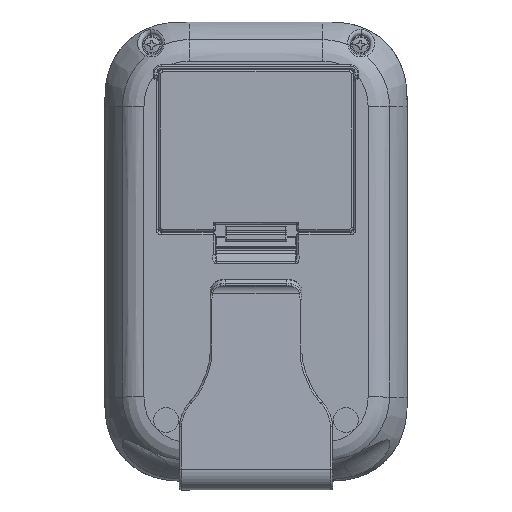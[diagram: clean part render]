
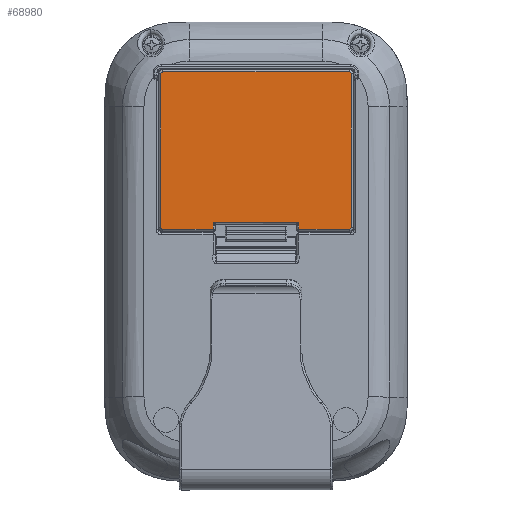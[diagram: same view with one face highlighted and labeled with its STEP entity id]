
A CAD part, front view. The second image highlights one B-rep face of the part: STEP entity #68980.
In plain terms, the highlighted planar face has unit normal (0, -1, 0).
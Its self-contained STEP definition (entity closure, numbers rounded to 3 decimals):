
#66366=DIRECTION('',(1.,0.,0.));
#66367=VECTOR('',#66366,13.169);
#66368=CARTESIAN_POINT('',(-24.369,-35.3,49.832));
#66369=LINE('',#66368,#66367);
#66370=CARTESIAN_POINT('',(-24.868,-35.3,50.331));
#66371=CARTESIAN_POINT('',(-24.868,-35.3,50.312));
#66372=CARTESIAN_POINT('',(-24.866,-35.3,50.275));
#66373=CARTESIAN_POINT('',(-24.857,-35.3,50.22));
#66374=CARTESIAN_POINT('',(-24.841,-35.3,50.166));
#66375=CARTESIAN_POINT('',(-24.82,-35.3,50.114));
#66376=CARTESIAN_POINT('',(-24.793,-35.3,50.065));
#66377=CARTESIAN_POINT('',(-24.76,-35.3,50.019));
#66378=CARTESIAN_POINT('',(-24.723,-35.3,49.977));
#66379=CARTESIAN_POINT('',(-24.681,-35.3,49.94));
#66380=CARTESIAN_POINT('',(-24.635,-35.3,49.907));
#66381=CARTESIAN_POINT('',(-24.586,-35.3,49.88));
#66382=CARTESIAN_POINT('',(-24.534,-35.3,49.859));
#66383=CARTESIAN_POINT('',(-24.48,-35.3,49.843));
#66384=CARTESIAN_POINT('',(-24.425,-35.3,49.834));
#66385=CARTESIAN_POINT('',(-24.388,-35.3,49.832));
#66386=CARTESIAN_POINT('',(-24.369,-35.3,49.832));
#66388=DIRECTION('',(0.,0.,-1.));
#66389=VECTOR('',#66388,40.138);
#66390=CARTESIAN_POINT('',(-24.868,-35.3,90.469));
#66391=LINE('',#66390,#66389);
#66392=CARTESIAN_POINT('',(-24.369,-35.3,90.968));
#66393=CARTESIAN_POINT('',(-24.388,-35.3,90.968));
#66394=CARTESIAN_POINT('',(-24.425,-35.3,90.966));
#66395=CARTESIAN_POINT('',(-24.48,-35.3,90.957));
#66396=CARTESIAN_POINT('',(-24.534,-35.3,90.941));
#66397=CARTESIAN_POINT('',(-24.586,-35.3,90.92));
#66398=CARTESIAN_POINT('',(-24.635,-35.3,90.893));
#66399=CARTESIAN_POINT('',(-24.681,-35.3,90.86));
#66400=CARTESIAN_POINT('',(-24.723,-35.3,90.823));
#66401=CARTESIAN_POINT('',(-24.76,-35.3,90.781));
#66402=CARTESIAN_POINT('',(-24.793,-35.3,90.735));
#66403=CARTESIAN_POINT('',(-24.82,-35.3,90.686));
#66404=CARTESIAN_POINT('',(-24.841,-35.3,90.634));
#66405=CARTESIAN_POINT('',(-24.857,-35.3,90.58));
#66406=CARTESIAN_POINT('',(-24.866,-35.3,90.525));
#66407=CARTESIAN_POINT('',(-24.868,-35.3,90.488));
#66408=CARTESIAN_POINT('',(-24.868,-35.3,90.469));
#66410=DIRECTION('',(-1.,0.,0.));
#66411=VECTOR('',#66410,48.738);
#66412=CARTESIAN_POINT('',(24.369,-35.3,90.968));
#66413=LINE('',#66412,#66411);
#66414=CARTESIAN_POINT('',(24.868,-35.3,90.469));
#66415=CARTESIAN_POINT('',(24.868,-35.3,90.488));
#66416=CARTESIAN_POINT('',(24.866,-35.3,90.525));
#66417=CARTESIAN_POINT('',(24.857,-35.3,90.58));
#66418=CARTESIAN_POINT('',(24.841,-35.3,90.634));
#66419=CARTESIAN_POINT('',(24.82,-35.3,90.686));
#66420=CARTESIAN_POINT('',(24.793,-35.3,90.735));
#66421=CARTESIAN_POINT('',(24.76,-35.3,90.781));
#66422=CARTESIAN_POINT('',(24.723,-35.3,90.823));
#66423=CARTESIAN_POINT('',(24.681,-35.3,90.86));
#66424=CARTESIAN_POINT('',(24.635,-35.3,90.893));
#66425=CARTESIAN_POINT('',(24.586,-35.3,90.92));
#66426=CARTESIAN_POINT('',(24.534,-35.3,90.941));
#66427=CARTESIAN_POINT('',(24.48,-35.3,90.957));
#66428=CARTESIAN_POINT('',(24.425,-35.3,90.966));
#66429=CARTESIAN_POINT('',(24.388,-35.3,90.968));
#66430=CARTESIAN_POINT('',(24.369,-35.3,90.968));
#66432=DIRECTION('',(0.,0.,1.));
#66433=VECTOR('',#66432,40.138);
#66434=CARTESIAN_POINT('',(24.868,-35.3,50.331));
#66435=LINE('',#66434,#66433);
#66436=CARTESIAN_POINT('',(24.369,-35.3,49.832));
#66437=CARTESIAN_POINT('',(24.388,-35.3,49.832));
#66438=CARTESIAN_POINT('',(24.425,-35.3,49.834));
#66439=CARTESIAN_POINT('',(24.48,-35.3,49.843));
#66440=CARTESIAN_POINT('',(24.534,-35.3,49.859));
#66441=CARTESIAN_POINT('',(24.586,-35.3,49.88));
#66442=CARTESIAN_POINT('',(24.635,-35.3,49.907));
#66443=CARTESIAN_POINT('',(24.681,-35.3,49.94));
#66444=CARTESIAN_POINT('',(24.723,-35.3,49.977));
#66445=CARTESIAN_POINT('',(24.76,-35.3,50.019));
#66446=CARTESIAN_POINT('',(24.793,-35.3,50.065));
#66447=CARTESIAN_POINT('',(24.82,-35.3,50.114));
#66448=CARTESIAN_POINT('',(24.841,-35.3,50.166));
#66449=CARTESIAN_POINT('',(24.857,-35.3,50.22));
#66450=CARTESIAN_POINT('',(24.866,-35.3,50.275));
#66451=CARTESIAN_POINT('',(24.868,-35.3,50.312));
#66452=CARTESIAN_POINT('',(24.868,-35.3,50.331));
#66454=DIRECTION('',(1.,0.,0.));
#66455=VECTOR('',#66454,13.169);
#66456=CARTESIAN_POINT('',(11.2,-35.3,49.832));
#66457=LINE('',#66456,#66455);
#66458=DIRECTION('',(0.,0.,-1.));
#66459=VECTOR('',#66458,1.768);
#66460=CARTESIAN_POINT('',(11.2,-35.3,51.6));
#66461=LINE('',#66460,#66459);
#66462=DIRECTION('',(1.,0.,0.));
#66463=VECTOR('',#66462,22.4);
#66464=CARTESIAN_POINT('',(-11.2,-35.3,51.6));
#66465=LINE('',#66464,#66463);
#66466=DIRECTION('',(0.,0.,1.));
#66467=VECTOR('',#66466,1.768);
#66468=CARTESIAN_POINT('',(-11.2,-35.3,49.832));
#66469=LINE('',#66468,#66467);
#66491=CARTESIAN_POINT('',(-11.2,-35.3,49.832));
#68617=CARTESIAN_POINT('',(-24.868,-35.3,90.469));
#68618=CARTESIAN_POINT('',(-24.868,-35.3,50.331));
#68619=VERTEX_POINT('',#68617);
#68620=VERTEX_POINT('',#68618);
#68624=CARTESIAN_POINT('',(24.369,-35.3,90.968));
#68625=CARTESIAN_POINT('',(-24.369,-35.3,90.968));
#68626=VERTEX_POINT('',#68624);
#68627=VERTEX_POINT('',#68625);
#68631=CARTESIAN_POINT('',(24.868,-35.3,50.331));
#68632=CARTESIAN_POINT('',(24.868,-35.3,90.469));
#68633=VERTEX_POINT('',#68631);
#68634=VERTEX_POINT('',#68632);
#68638=CARTESIAN_POINT('',(-24.369,-35.3,49.832));
#68639=VERTEX_POINT('',#68638);
#68640=CARTESIAN_POINT('',(24.369,-35.3,49.832));
#68641=VERTEX_POINT('',#68640);
#68739=VERTEX_POINT('',#66491);
#68757=CARTESIAN_POINT('',(11.2,-35.3,49.832));
#68758=VERTEX_POINT('',#68757);
#68761=CARTESIAN_POINT('',(-11.2,-35.3,51.6));
#68762=VERTEX_POINT('',#68761);
#68765=CARTESIAN_POINT('',(11.2,-35.3,51.6));
#68766=VERTEX_POINT('',#68765);
#68949=CARTESIAN_POINT('',(-25.5,-35.3,49.2));
#68950=DIRECTION('',(0.,1.,0.));
#68951=DIRECTION('',(1.,0.,0.));
#68952=AXIS2_PLACEMENT_3D('',#68949,#68950,#68951);
#68953=PLANE('',#68952);
#68955=ORIENTED_EDGE('',*,*,#68954,.F.);
#68957=ORIENTED_EDGE('',*,*,#68956,.F.);
#68959=ORIENTED_EDGE('',*,*,#68958,.F.);
#68961=ORIENTED_EDGE('',*,*,#68960,.F.);
#68963=ORIENTED_EDGE('',*,*,#68962,.F.);
#68965=ORIENTED_EDGE('',*,*,#68964,.F.);
#68967=ORIENTED_EDGE('',*,*,#68966,.F.);
#68969=ORIENTED_EDGE('',*,*,#68968,.F.);
#68971=ORIENTED_EDGE('',*,*,#68970,.F.);
#68973=ORIENTED_EDGE('',*,*,#68972,.F.);
#68975=ORIENTED_EDGE('',*,*,#68974,.F.);
#68977=ORIENTED_EDGE('',*,*,#68976,.F.);
#68978=EDGE_LOOP('',(#68955,#68957,#68959,#68961,#68963,#68965,#68967,#68969,
#68971,#68973,#68975,#68977));
#68979=FACE_OUTER_BOUND('',#68978,.F.);
#66387=B_SPLINE_CURVE_WITH_KNOTS('',3,(#66370,#66371,#66372,#66373,#66374,
#66375,#66376,#66377,#66378,#66379,#66380,#66381,#66382,#66383,#66384,#66385,
#66386),.UNSPECIFIED.,.F.,.F.,(4,1,1,1,1,1,1,1,1,1,1,1,1,1,4),(0.,
0.071,0.143,0.214,0.286,
0.357,0.429,0.5,0.571,0.643,
0.714,0.786,0.857,0.929,1.),
.UNSPECIFIED.);
#66409=B_SPLINE_CURVE_WITH_KNOTS('',3,(#66392,#66393,#66394,#66395,#66396,
#66397,#66398,#66399,#66400,#66401,#66402,#66403,#66404,#66405,#66406,#66407,
#66408),.UNSPECIFIED.,.F.,.F.,(4,1,1,1,1,1,1,1,1,1,1,1,1,1,4),(0.,
0.071,0.143,0.214,0.286,
0.357,0.429,0.5,0.571,0.643,
0.714,0.786,0.857,0.929,1.),
.UNSPECIFIED.);
#66431=B_SPLINE_CURVE_WITH_KNOTS('',3,(#66414,#66415,#66416,#66417,#66418,
#66419,#66420,#66421,#66422,#66423,#66424,#66425,#66426,#66427,#66428,#66429,
#66430),.UNSPECIFIED.,.F.,.F.,(4,1,1,1,1,1,1,1,1,1,1,1,1,1,4),(0.,
0.071,0.143,0.214,0.286,
0.357,0.429,0.5,0.571,0.643,
0.714,0.786,0.857,0.929,1.),
.UNSPECIFIED.);
#66453=B_SPLINE_CURVE_WITH_KNOTS('',3,(#66436,#66437,#66438,#66439,#66440,
#66441,#66442,#66443,#66444,#66445,#66446,#66447,#66448,#66449,#66450,#66451,
#66452),.UNSPECIFIED.,.F.,.F.,(4,1,1,1,1,1,1,1,1,1,1,1,1,1,4),(0.,
0.071,0.143,0.214,0.286,
0.357,0.429,0.5,0.571,0.643,
0.714,0.786,0.857,0.929,1.),
.UNSPECIFIED.);
#68954=EDGE_CURVE('',#68639,#68739,#66369,.T.);
#68956=EDGE_CURVE('',#68620,#68639,#66387,.T.);
#68958=EDGE_CURVE('',#68619,#68620,#66391,.T.);
#68960=EDGE_CURVE('',#68627,#68619,#66409,.T.);
#68962=EDGE_CURVE('',#68626,#68627,#66413,.T.);
#68964=EDGE_CURVE('',#68634,#68626,#66431,.T.);
#68966=EDGE_CURVE('',#68633,#68634,#66435,.T.);
#68968=EDGE_CURVE('',#68641,#68633,#66453,.T.);
#68970=EDGE_CURVE('',#68758,#68641,#66457,.T.);
#68972=EDGE_CURVE('',#68766,#68758,#66461,.T.);
#68974=EDGE_CURVE('',#68762,#68766,#66465,.T.);
#68976=EDGE_CURVE('',#68739,#68762,#66469,.T.);
#68980=ADVANCED_FACE('',(#68979),#68953,.F.);
